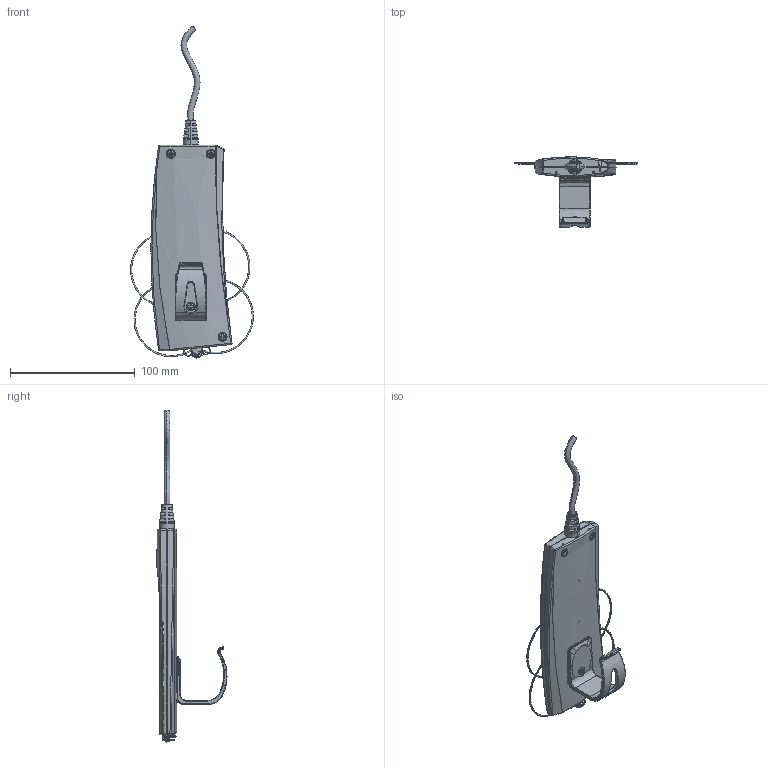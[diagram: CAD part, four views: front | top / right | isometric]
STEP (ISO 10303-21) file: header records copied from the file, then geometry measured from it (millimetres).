
FILE_DESCRIPTION((''),'2;1');
FILE_NAME('HT_ASM','2014-06-03T',('user'),(''),'PRO/ENGINEER BY PARAMETRIC TECHNOLOGY CORPORATION, 2008090','PRO/ENGINEER BY PARAMETRIC TECHNOLOGY CORPORATION, 2008090','');
FILE_SCHEMA(('CONFIG_CONTROL_DESIGN'));
Products named in the file (1): HT_ASM
Bounding box: 98.6 x 56.2 x 266.44 mm (x, y, z)
Surface area: 84914.7 mm2 (no closed solid volume)
Topology: 0 solids, 0 shells, 1362 faces, 7481 edges, 7361 vertices
Faces by surface type: bspline 1210, torus 122, sphere 30
Entity records: 125208 total; most frequent: CARTESIAN_POINT 64072, DIRECTION 9095, TRIMMED_CURVE 7457, DEFINITIONAL_REPRESENTATION 7286, PCURVE 7286, COMPOSITE_CURVE_SEGMENT 7286, VECTOR 6123, LINE 6123
